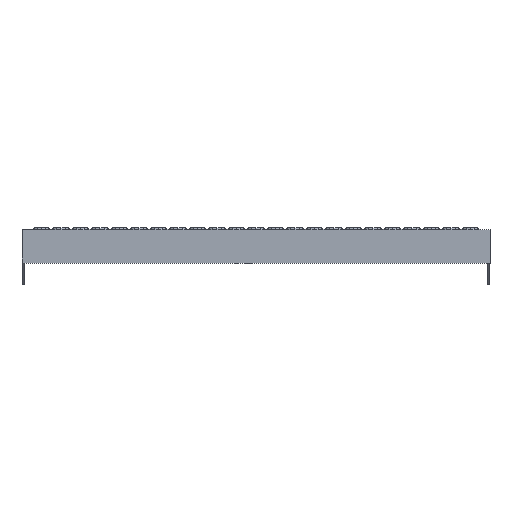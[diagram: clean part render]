
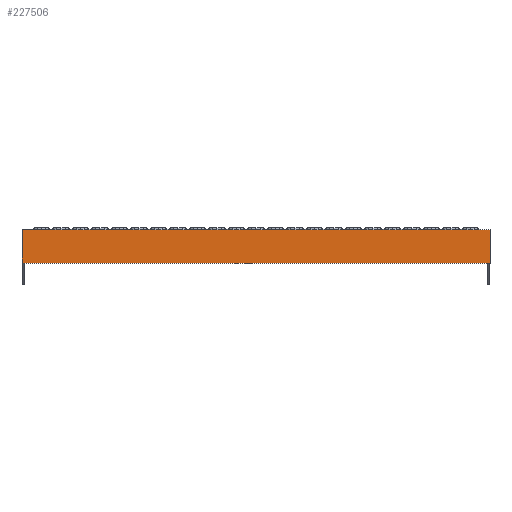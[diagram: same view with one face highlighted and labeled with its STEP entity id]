
A CAD part, front view. The second image highlights one B-rep face of the part: STEP entity #227506.
In plain terms, the highlighted planar face has unit normal (0, -1, 0).
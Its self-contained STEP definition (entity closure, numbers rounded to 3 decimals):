
#227506 = ADVANCED_FACE('',(#227507),#227521,.T.);
#227507 = FACE_BOUND('',#227508,.T.);
#227508 = EDGE_LOOP('',(#227509,#227532,#227548,#227564));
#227509 = ORIENTED_EDGE('',*,*,#227510,.T.);
#227510 = EDGE_CURVE('',#227511,#227513,#227515,.T.);
#227511 = VERTEX_POINT('',#227512);
#227512 = CARTESIAN_POINT('',(6600.,8770.,
    0.));
#227513 = VERTEX_POINT('',#227514);
#227514 = CARTESIAN_POINT('',(6000.,8770.,
    0.));
#227515 = SURFACE_CURVE('',#227516,(#227520),.PCURVE_S1.);
#227516 = LINE('',#227517,#227518);
#227517 = CARTESIAN_POINT('',(6600.,8770.,
    0.));
#227518 = VECTOR('',#227519,1.);
#227519 = DIRECTION('',(-1.,0.,0.));
#227520 = PCURVE('',#227521,#227526);
#227521 = PLANE('',#227522);
#227522 = AXIS2_PLACEMENT_3D('',#227523,#227524,#227525);
#227523 = CARTESIAN_POINT('',(6300.,8770.,
    -21.25));
#227524 = DIRECTION('',(0.,-1.,0.));
#227525 = DIRECTION('',(0.,0.,-1.));
#227526 = DEFINITIONAL_REPRESENTATION('',(#227527),#227531);
#227527 = LINE('',#227528,#227529);
#227528 = CARTESIAN_POINT('',(-21.25,300.));
#227529 = VECTOR('',#227530,1.);
#227530 = DIRECTION('',(0.,-1.));
#227531 = ( GEOMETRIC_REPRESENTATION_CONTEXT(2) 
PARAMETRIC_REPRESENTATION_CONTEXT() REPRESENTATION_CONTEXT('2D SPACE',''
  ) );
#227532 = ORIENTED_EDGE('',*,*,#227533,.T.);
#227533 = EDGE_CURVE('',#227513,#227534,#227536,.T.);
#227534 = VERTEX_POINT('',#227535);
#227535 = CARTESIAN_POINT('',(6000.,8770.,-42.5)
  );
#227536 = SURFACE_CURVE('',#227537,(#227541),.PCURVE_S1.);
#227537 = LINE('',#227538,#227539);
#227538 = CARTESIAN_POINT('',(6000.,8770.,
    0.));
#227539 = VECTOR('',#227540,1.);
#227540 = DIRECTION('',(0.,0.,-1.));
#227541 = PCURVE('',#227521,#227542);
#227542 = DEFINITIONAL_REPRESENTATION('',(#227543),#227547);
#227543 = LINE('',#227544,#227545);
#227544 = CARTESIAN_POINT('',(-21.25,-300.));
#227545 = VECTOR('',#227546,1.);
#227546 = DIRECTION('',(1.,0.));
#227547 = ( GEOMETRIC_REPRESENTATION_CONTEXT(2) 
PARAMETRIC_REPRESENTATION_CONTEXT() REPRESENTATION_CONTEXT('2D SPACE',''
  ) );
#227548 = ORIENTED_EDGE('',*,*,#227549,.T.);
#227549 = EDGE_CURVE('',#227534,#227550,#227552,.T.);
#227550 = VERTEX_POINT('',#227551);
#227551 = CARTESIAN_POINT('',(6600.,8770.,
    -42.5));
#227552 = SURFACE_CURVE('',#227553,(#227557),.PCURVE_S1.);
#227553 = LINE('',#227554,#227555);
#227554 = CARTESIAN_POINT('',(6000.,8770.,-42.5)
  );
#227555 = VECTOR('',#227556,1.);
#227556 = DIRECTION('',(1.,0.,0.));
#227557 = PCURVE('',#227521,#227558);
#227558 = DEFINITIONAL_REPRESENTATION('',(#227559),#227563);
#227559 = LINE('',#227560,#227561);
#227560 = CARTESIAN_POINT('',(21.25,-300.));
#227561 = VECTOR('',#227562,1.);
#227562 = DIRECTION('',(0.,1.));
#227563 = ( GEOMETRIC_REPRESENTATION_CONTEXT(2) 
PARAMETRIC_REPRESENTATION_CONTEXT() REPRESENTATION_CONTEXT('2D SPACE',''
  ) );
#227564 = ORIENTED_EDGE('',*,*,#227565,.T.);
#227565 = EDGE_CURVE('',#227550,#227511,#227566,.T.);
#227566 = SURFACE_CURVE('',#227567,(#227571),.PCURVE_S1.);
#227567 = LINE('',#227568,#227569);
#227568 = CARTESIAN_POINT('',(6600.,8770.,
    -42.5));
#227569 = VECTOR('',#227570,1.);
#227570 = DIRECTION('',(0.,0.,1.));
#227571 = PCURVE('',#227521,#227572);
#227572 = DEFINITIONAL_REPRESENTATION('',(#227573),#227577);
#227573 = LINE('',#227574,#227575);
#227574 = CARTESIAN_POINT('',(21.25,300.));
#227575 = VECTOR('',#227576,1.);
#227576 = DIRECTION('',(-1.,0.));
#227577 = ( GEOMETRIC_REPRESENTATION_CONTEXT(2) 
PARAMETRIC_REPRESENTATION_CONTEXT() REPRESENTATION_CONTEXT('2D SPACE',''
  ) );
